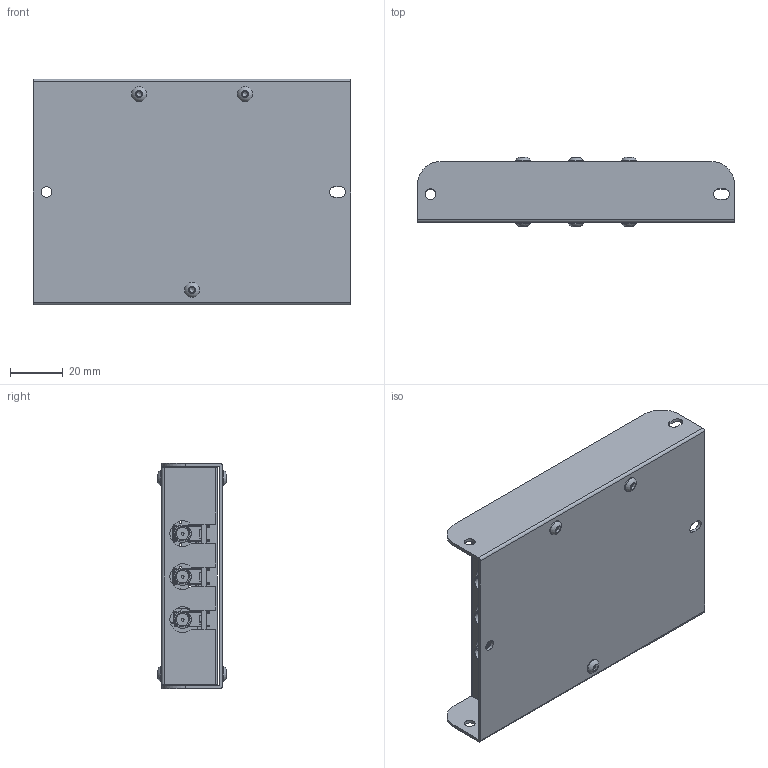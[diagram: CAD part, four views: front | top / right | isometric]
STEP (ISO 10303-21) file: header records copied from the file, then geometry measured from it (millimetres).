
FILE_DESCRIPTION (( 'STEP AP214' ), '1' );
FILE_NAME ('CuaUSB.STEP', '2011-02-24T11:41:34', ( '' ), ( '' ), 'SwSTEP 2.0', 'SolidWorks 2011', '' );
FILE_SCHEMA (( 'AUTOMOTIVE_DESIGN' ));
Length unit declared in the file: millimetre
Products named in the file (1): CuaUSB
Bounding box: 120 x 26.3 x 85.2 mm (x, y, z)
Surface area: 59929.5 mm2 (no closed solid volume)
Topology: 0 solids, 27 shells, 316 faces, 1214 edges, 902 vertices
Faces by surface type: plane 167, cylinder 112, bspline 25, sphere 6, cone 6
Full cylindrical faces by diameter (mm): 1.016 x25, 2.3 x6, 4 x3, 4.7 x3, 5.45 x21, 5.7 x6
Entity records: 22471 total; most frequent: CARTESIAN_POINT 9842, DIRECTION 1850, ORIENTED_EDGE 1586, EDGE_CURVE 1092, VERTEX_POINT 853, VECTOR 688, LINE 688, AXIS2_PLACEMENT_3D 581
